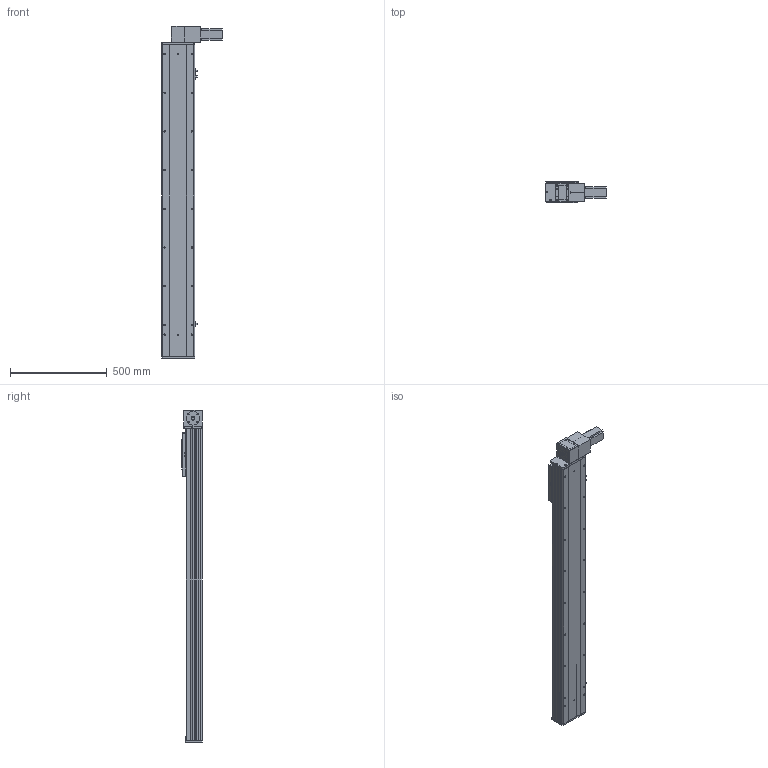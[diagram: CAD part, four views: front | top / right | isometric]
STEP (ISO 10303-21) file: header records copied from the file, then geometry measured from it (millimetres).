
FILE_DESCRIPTION (( 'STEP AP203' ), '1' );
FILE_NAME ('Y170CB-D105-S1300-BD-P400W.STEP', '2020-02-20T08:41:49', ( '微软用户' ), ( '微软中国' ), 'SwSTEP 2.0', 'SolidWorks 2017', '' );
FILE_SCHEMA (( 'CONFIG_CONTROL_DESIGN' ));
Length unit declared in the file: millimetre
Products named in the file (16): 0B薊粣ん眊-400W--; 70CB--耜裔; Y170CB-D105-S1300-BD-P400W; 70C-雄赽釱-奻-; 0C--雄赽釱俋欶-170; B-源倛裔啣; 70CB-詩湍--; san松下电机400不带刹车----; Y100-135俋离換覜ん--; 70CB-掛极-; Y170CB-陔俋离換覜結え---; --70CB --喘謫眊楊擘啣-; Y1埴倛裔; 70CB-耜裔啣-; 70B喘謫眊----; 70C--詩湍揤踡え-
Assembly tree (19 placements, depth 2):
  Y170CB-D105-S1300-BD-P400W
    B-源倛裔啣
    san松下电机400不带刹车----
    70CB-掛极-
    --70CB --喘謫眊楊擘啣-
    70CB-耜裔啣-  x2
    70C--詩湍揤踡え-  x2
    70CB--耜裔
    70C-雄赽釱-奻-
    0C--雄赽釱俋欶-170
    70CB-詩湍--
    Y100-135俋离換覜ん--  x3
    Y170CB-陔俋离換覜結え---
    Y1埴倛裔
    70B喘謫眊----
    0B薊粣ん眊-400W--
Bounding box: 313.5 x 107 x 1716 mm (x, y, z)
Volume: 8007432.3 mm3; surface area: 2746162.5 mm2
Topology: 19 solids, 19 shells, 936 faces, 2474 edges, 1640 vertices
Faces by surface type: cylinder 490, plane 422, cone 24
Entity records: 29303 total; most frequent: CARTESIAN_POINT 5446, DIRECTION 4767, ORIENTED_EDGE 4430, EDGE_CURVE 2215, AXIS2_PLACEMENT_3D 1761, VERTEX_POINT 1470, LINE 1245, VECTOR 1245
